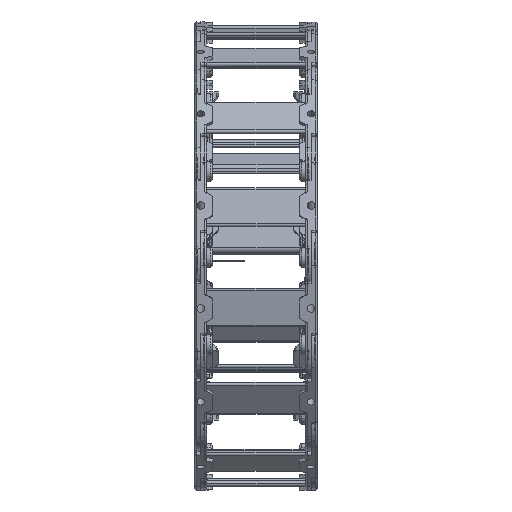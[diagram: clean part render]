
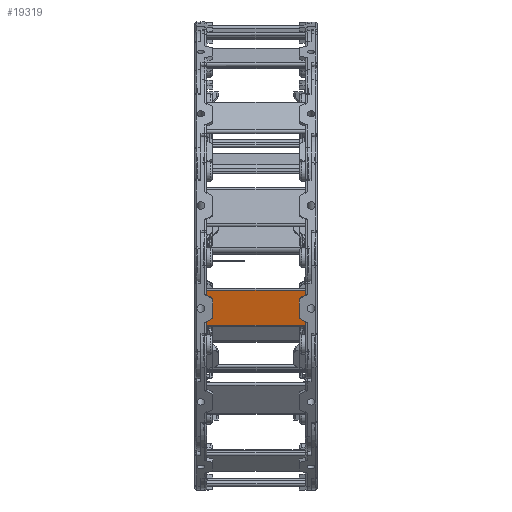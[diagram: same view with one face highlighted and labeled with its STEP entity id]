
A CAD part, front view. The second image highlights one B-rep face of the part: STEP entity #19319.
In plain terms, the highlighted planar face has unit normal (0, -0.978, -0.208) as drawn and (0, 0, -1) by its records, which use the part's own axes.
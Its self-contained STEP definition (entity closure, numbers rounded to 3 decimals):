
#19216=CARTESIAN_POINT('',(-64.6,-18.,-33.5));
#19217=DIRECTION('',(0.0,0.0,-1.0));
#19218=DIRECTION('',(-1.0,0.0,0.0));
#19219=AXIS2_PLACEMENT_3D('',#19216,#19217,#19218);
#19220=PLANE('',#19219);
#19221=CARTESIAN_POINT('',(50.,13.464,-33.5));
#19222=VERTEX_POINT('',#19221);
#19223=CARTESIAN_POINT('',(44.,10.0,-33.5));
#19224=VERTEX_POINT('',#19223);
#19225=CARTESIAN_POINT('',(50.,13.464,-33.5));
#19226=DIRECTION('',(-0.866,-0.5,0.0));
#19227=VECTOR('',#19226,6.928);
#19228=LINE('',#19225,#19227);
#19229=EDGE_CURVE('',#19222,#19224,#19228,.T.);
#19230=ORIENTED_EDGE('',*,*,#19229,.T.);
#19231=CARTESIAN_POINT('',(44.,-10.,-33.5));
#19232=VERTEX_POINT('',#19231);
#19233=CARTESIAN_POINT('',(44.,10.0,-33.5));
#19234=DIRECTION('',(0.0,-1.0,0.0));
#19235=VECTOR('',#19234,20.);
#19236=LINE('',#19233,#19235);
#19237=EDGE_CURVE('',#19224,#19232,#19236,.T.);
#19238=ORIENTED_EDGE('',*,*,#19237,.T.);
#19239=CARTESIAN_POINT('',(50.,-13.464,-33.5));
#19240=VERTEX_POINT('',#19239);
#19241=CARTESIAN_POINT('',(44.,-10.,-33.5));
#19242=DIRECTION('',(0.866,-0.5,0.0));
#19243=VECTOR('',#19242,6.928);
#19244=LINE('',#19241,#19243);
#19245=EDGE_CURVE('',#19232,#19240,#19244,.T.);
#19246=ORIENTED_EDGE('',*,*,#19245,.T.);
#19247=CARTESIAN_POINT('',(50.,-18.,-33.5));
#19248=VERTEX_POINT('',#19247);
#19249=CARTESIAN_POINT('',(50.,-18.,-33.5));
#19250=DIRECTION('',(0.0,1.0,0.0));
#19251=VECTOR('',#19250,4.536);
#19252=LINE('',#19249,#19251);
#19253=EDGE_CURVE('',#19248,#19240,#19252,.T.);
#19254=ORIENTED_EDGE('',*,*,#19253,.F.);
#19255=CARTESIAN_POINT('',(-50.,-18.,-33.5));
#19256=VERTEX_POINT('',#19255);
#19257=CARTESIAN_POINT('',(50.,-18.,-33.5));
#19258=DIRECTION('',(-1.0,0.0,0.0));
#19259=VECTOR('',#19258,100.0);
#19260=LINE('',#19257,#19259);
#19261=EDGE_CURVE('',#19248,#19256,#19260,.T.);
#19262=ORIENTED_EDGE('',*,*,#19261,.T.);
#19263=CARTESIAN_POINT('',(-50.,-13.464,-33.5));
#19264=VERTEX_POINT('',#19263);
#19265=CARTESIAN_POINT('',(-50.,-13.464,-33.5));
#19266=DIRECTION('',(0.0,-1.0,0.0));
#19267=VECTOR('',#19266,4.536);
#19268=LINE('',#19265,#19267);
#19269=EDGE_CURVE('',#19264,#19256,#19268,.T.);
#19270=ORIENTED_EDGE('',*,*,#19269,.F.);
#19271=CARTESIAN_POINT('',(-44.,-10.0,-33.5));
#19272=VERTEX_POINT('',#19271);
#19273=CARTESIAN_POINT('',(-50.,-13.464,-33.5));
#19274=DIRECTION('',(0.866,0.5,0.0));
#19275=VECTOR('',#19274,6.928);
#19276=LINE('',#19273,#19275);
#19277=EDGE_CURVE('',#19264,#19272,#19276,.T.);
#19278=ORIENTED_EDGE('',*,*,#19277,.T.);
#19279=CARTESIAN_POINT('',(-44.,10.,-33.5));
#19280=VERTEX_POINT('',#19279);
#19281=CARTESIAN_POINT('',(-44.,-10.0,-33.5));
#19282=DIRECTION('',(0.0,1.0,0.0));
#19283=VECTOR('',#19282,20.);
#19284=LINE('',#19281,#19283);
#19285=EDGE_CURVE('',#19272,#19280,#19284,.T.);
#19286=ORIENTED_EDGE('',*,*,#19285,.T.);
#19287=CARTESIAN_POINT('',(-50.,13.464,-33.5));
#19288=VERTEX_POINT('',#19287);
#19289=CARTESIAN_POINT('',(-44.,10.,-33.5));
#19290=DIRECTION('',(-0.866,0.5,0.0));
#19291=VECTOR('',#19290,6.928);
#19292=LINE('',#19289,#19291);
#19293=EDGE_CURVE('',#19280,#19288,#19292,.T.);
#19294=ORIENTED_EDGE('',*,*,#19293,.T.);
#19295=CARTESIAN_POINT('',(-50.,18.,-33.5));
#19296=VERTEX_POINT('',#19295);
#19297=CARTESIAN_POINT('',(-50.,18.,-33.5));
#19298=DIRECTION('',(0.0,-1.0,0.0));
#19299=VECTOR('',#19298,4.536);
#19300=LINE('',#19297,#19299);
#19301=EDGE_CURVE('',#19296,#19288,#19300,.T.);
#19302=ORIENTED_EDGE('',*,*,#19301,.F.);
#19303=CARTESIAN_POINT('',(50.,18.,-33.5));
#19304=VERTEX_POINT('',#19303);
#19305=CARTESIAN_POINT('',(50.,18.,-33.5));
#19306=DIRECTION('',(-1.0,0.0,0.0));
#19307=VECTOR('',#19306,100.0);
#19308=LINE('',#19305,#19307);
#19309=EDGE_CURVE('',#19304,#19296,#19308,.T.);
#19310=ORIENTED_EDGE('',*,*,#19309,.F.);
#19311=CARTESIAN_POINT('',(50.,13.464,-33.5));
#19312=DIRECTION('',(0.0,1.0,0.0));
#19313=VECTOR('',#19312,4.536);
#19314=LINE('',#19311,#19313);
#19315=EDGE_CURVE('',#19222,#19304,#19314,.T.);
#19316=ORIENTED_EDGE('',*,*,#19315,.F.);
#19317=EDGE_LOOP('',(#19230,#19238,#19246,#19254,#19262,#19270,#19278,#19286,#19294,#19302,#19310,#19316));
#19318=FACE_OUTER_BOUND('',#19317,.T.);
#19319=ADVANCED_FACE('',(#19318),#19220,.T.);
